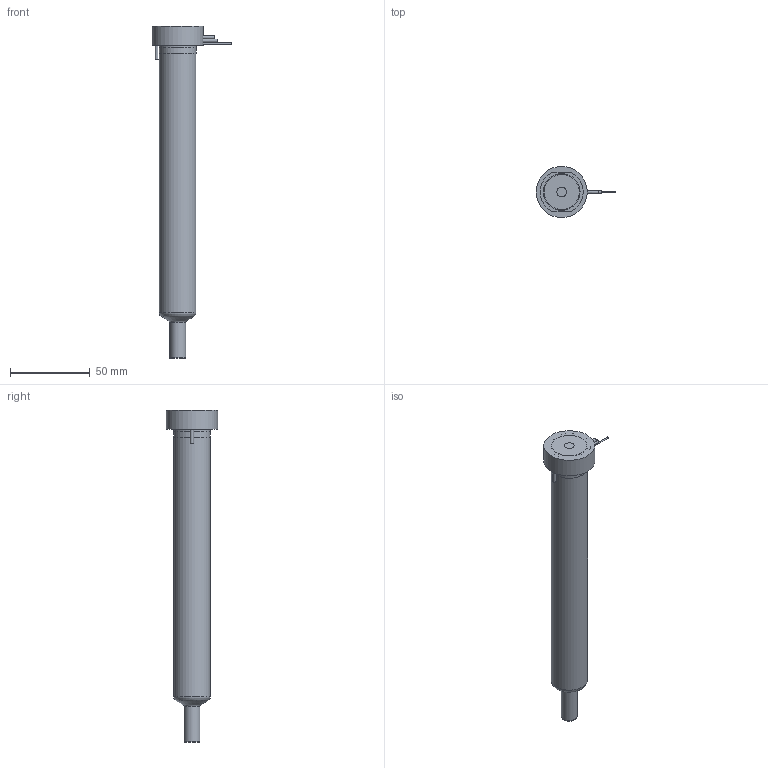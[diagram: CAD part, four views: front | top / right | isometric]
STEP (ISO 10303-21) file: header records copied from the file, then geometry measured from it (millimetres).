
FILE_DESCRIPTION(/* description */ (''),/* implementation_level */ '2;1');
FILE_NAME(/* name */ 'MXYCN13175N3U_200C_a',/* time_stamp */ '2016-02-26T15:49:22+13:00',/* author */ (''),/* organization */ (''),/* preprocessor_version */ 'ST-DEVELOPER v9',/* originating_system */ 'UGS - NX 4.0',/* authorisation */ '');
FILE_SCHEMA (('CONFIG_CONTROL_DESIGN'));
Length unit declared in the file: millimetre
Products named in the file (1): matt70754hag
Bounding box: 49.95 x 32 x 207.74 mm (x, y, z)
Volume: 136442.4 mm3; surface area: 30036.2 mm2
Topology: 2 solids, 2 shells, 71 faces, 156 edges, 102 vertices
Faces by surface type: plane 31, cylinder 26, torus 7, cone 5, bspline 1, sphere 1
Full cylindrical faces by diameter (mm): 1 x2, 1.3 x1, 2 x3, 4 x1, 6 x1, 9.61 x1, 9.995 x2, 12.6 x1, 18.8 x1, 22.9 x1, 23 x2, 32 x1
Entity records: 2121 total; most frequent: CARTESIAN_POINT 614, DIRECTION 314, ORIENTED_EDGE 234, AXIS2_PLACEMENT_3D 141, EDGE_CURVE 117, EDGE_LOOP 114, VERTEX_POINT 91, ADVANCED_FACE 71
